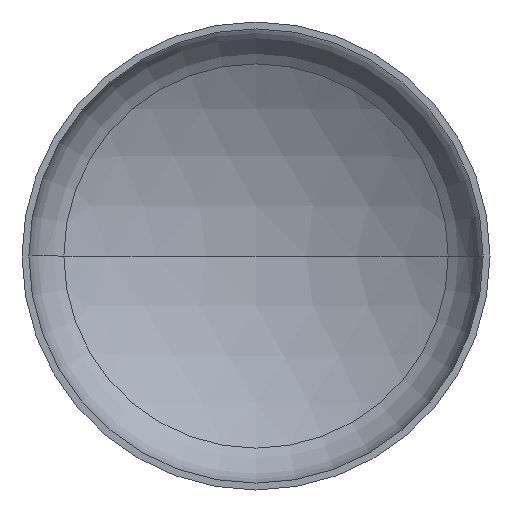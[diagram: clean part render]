
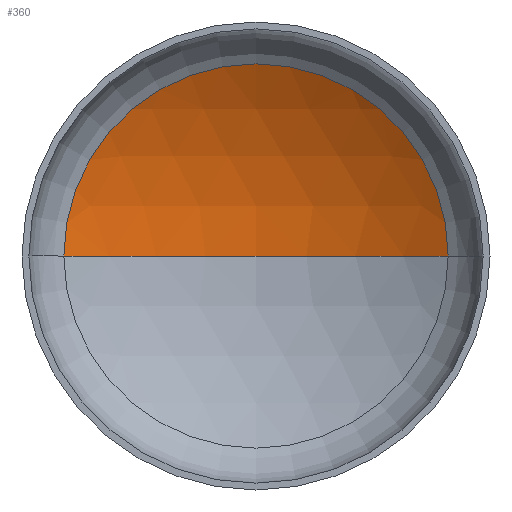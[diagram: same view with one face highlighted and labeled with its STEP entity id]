
A CAD part, front view. The second image highlights one B-rep face of the part: STEP entity #360.
In plain terms, the highlighted spherical face has radius 218 mm.
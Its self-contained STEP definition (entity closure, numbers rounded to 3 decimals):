
#1 = CIRCLE ( 'NONE', #154, 112.097 ) ;
#2 = CARTESIAN_POINT ( 'NONE',  ( 0., 87.051, 0. ) ) ;
#33 = AXIS2_PLACEMENT_3D ( 'NONE', #328, #301, #400 ) ;
#37 = VERTEX_POINT ( 'NONE', #2 ) ;
#43 = VERTEX_POINT ( 'NONE', #313 ) ;
#56 = ORIENTED_EDGE ( 'NONE', *, *, #245, .T. ) ;
#60 = ORIENTED_EDGE ( 'NONE', *, *, #249, .T. ) ;
#78 = EDGE_LOOP ( 'NONE', ( #119, #60, #56 ) ) ;
#119 = ORIENTED_EDGE ( 'NONE', *, *, #253, .F. ) ;
#133 = DIRECTION ( 'NONE',  ( 0., 0., 1. ) ) ;
#136 = AXIS2_PLACEMENT_3D ( 'NONE', #297, #133, #324 ) ;
#142 = AXIS2_PLACEMENT_3D ( 'NONE', #212, #396, #246 ) ;
#154 = AXIS2_PLACEMENT_3D ( 'NONE', #322, #157, #345 ) ;
#157 = DIRECTION ( 'NONE',  ( 0., -1., 0. ) ) ;
#177 = VERTEX_POINT ( 'NONE', #204 ) ;
#204 = CARTESIAN_POINT ( 'NONE',  ( 112.097, 56.022, 0. ) ) ;
#212 = CARTESIAN_POINT ( 'NONE',  ( 0., -130.949, 0. ) ) ;
#245 = EDGE_CURVE ( 'NONE', #177, #43, #1, .T. ) ;
#246 = DIRECTION ( 'NONE',  ( -1., 0., 0. ) ) ;
#249 = EDGE_CURVE ( 'NONE', #37, #177, #351, .T. ) ;
#253 = EDGE_CURVE ( 'NONE', #37, #43, #290, .T. ) ;
#290 = CIRCLE ( 'NONE', #136, 218. ) ;
#297 = CARTESIAN_POINT ( 'NONE',  ( 0., -130.949, 0. ) ) ;
#301 = DIRECTION ( 'NONE',  ( 0., 0., -1. ) ) ;
#313 = CARTESIAN_POINT ( 'NONE',  ( -112.097, 56.022, 0. ) ) ;
#322 = CARTESIAN_POINT ( 'NONE',  ( 0., 56.022, 0. ) ) ;
#323 = SPHERICAL_SURFACE ( 'NONE', #33, 218. ) ;
#324 = DIRECTION ( 'NONE',  ( 1., 0., 0. ) ) ;
#328 = CARTESIAN_POINT ( 'NONE',  ( 0., -130.949, 0. ) ) ;
#332 = FACE_OUTER_BOUND ( 'NONE', #78, .T. ) ;
#345 = DIRECTION ( 'NONE',  ( 1., 0., 0. ) ) ;
#351 = CIRCLE ( 'NONE', #142, 218. ) ;
#360 = ADVANCED_FACE ( 'NONE', ( #332 ), #323, .F. ) ;
#396 = DIRECTION ( 'NONE',  ( 0., 0., -1. ) ) ;
#400 = DIRECTION ( 'NONE',  ( -1., 0., 0. ) ) ;
